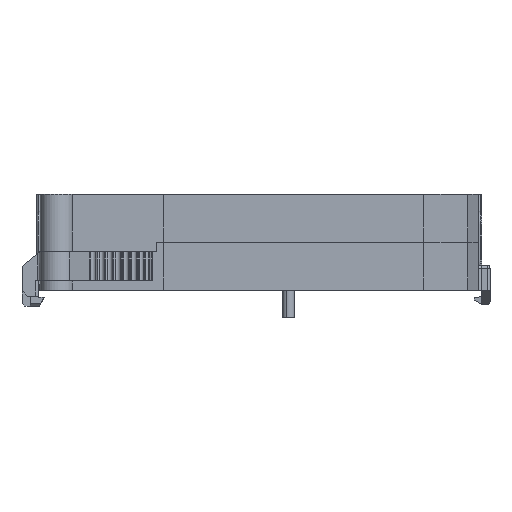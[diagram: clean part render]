
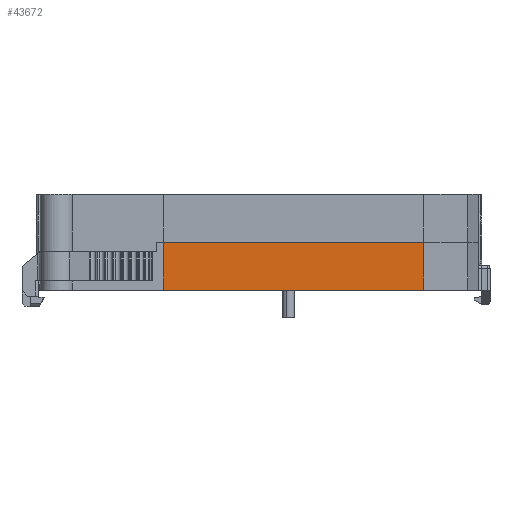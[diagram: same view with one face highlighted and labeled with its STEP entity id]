
A CAD part, front view. The second image highlights one B-rep face of the part: STEP entity #43672.
In plain terms, the highlighted planar face has unit normal (0, -1, 0).
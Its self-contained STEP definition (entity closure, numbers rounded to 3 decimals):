
#1461 = VERTEX_POINT ( 'NONE', #36501 ) ;
#2007 = CARTESIAN_POINT ( 'NONE',  ( -13.5, 0., 1.7 ) ) ;
#4256 = LINE ( 'NONE', #2007, #34626 ) ;
#7306 = DIRECTION ( 'NONE',  ( 1., 0., 0. ) ) ;
#9458 = VECTOR ( 'NONE', #25750, 1000. ) ;
#10948 = AXIS2_PLACEMENT_3D ( 'NONE', #34487, #24014, #38441 ) ;
#12198 = EDGE_CURVE ( 'NONE', #13707, #17114, #17710, .T. ) ;
#13707 = VERTEX_POINT ( 'NONE', #36728 ) ;
#14460 = CARTESIAN_POINT ( 'NONE',  ( 34., 0., 0. ) ) ;
#14514 = EDGE_CURVE ( 'NONE', #17114, #17169, #16469, .T. ) ;
#14990 = LINE ( 'NONE', #28107, #25298 ) ;
#16469 = LINE ( 'NONE', #18942, #9458 ) ;
#17114 = VERTEX_POINT ( 'NONE', #14460 ) ;
#17169 = VERTEX_POINT ( 'NONE', #24906 ) ;
#17710 = LINE ( 'NONE', #32002, #43199 ) ;
#18942 = CARTESIAN_POINT ( 'NONE',  ( 34., 0., -13.019 ) ) ;
#24014 = DIRECTION ( 'NONE',  ( 0., 1., 0. ) ) ;
#24906 = CARTESIAN_POINT ( 'NONE',  ( 34., 0., 8.75 ) ) ;
#25298 = VECTOR ( 'NONE', #35098, 1000. ) ;
#25750 = DIRECTION ( 'NONE',  ( 0., 0., 1. ) ) ;
#25961 = DIRECTION ( 'NONE',  ( 0., 0., -1. ) ) ;
#27372 = ORIENTED_EDGE ( 'NONE', *, *, #43715, .T. ) ;
#28107 = CARTESIAN_POINT ( 'NONE',  ( -13.5, 0., 8.75 ) ) ;
#28674 = ORIENTED_EDGE ( 'NONE', *, *, #14514, .T. ) ;
#29616 = EDGE_LOOP ( 'NONE', ( #28674, #27372, #29742, #41404 ) ) ;
#29742 = ORIENTED_EDGE ( 'NONE', *, *, #39776, .T. ) ;
#32002 = CARTESIAN_POINT ( 'NONE',  ( 0., 0., 0. ) ) ;
#34487 = CARTESIAN_POINT ( 'NONE',  ( 0., 0., 1.7 ) ) ;
#34626 = VECTOR ( 'NONE', #25961, 1000. ) ;
#35098 = DIRECTION ( 'NONE',  ( -1., 0., 0. ) ) ;
#35624 = FACE_OUTER_BOUND ( 'NONE', #29616, .T. ) ;
#36501 = CARTESIAN_POINT ( 'NONE',  ( -13.5, 0., 8.75 ) ) ;
#36728 = CARTESIAN_POINT ( 'NONE',  ( -13.5, 0., 0. ) ) ;
#38441 = DIRECTION ( 'NONE',  ( 0., 0., 1. ) ) ;
#38592 = PLANE ( 'NONE',  #10948 ) ;
#39776 = EDGE_CURVE ( 'NONE', #1461, #13707, #4256, .T. ) ;
#41404 = ORIENTED_EDGE ( 'NONE', *, *, #12198, .T. ) ;
#43199 = VECTOR ( 'NONE', #7306, 1000. ) ;
#43672 = ADVANCED_FACE ( 'NONE', ( #35624 ), #38592, .F. ) ;
#43715 = EDGE_CURVE ( 'NONE', #17169, #1461, #14990, .T. ) ;
